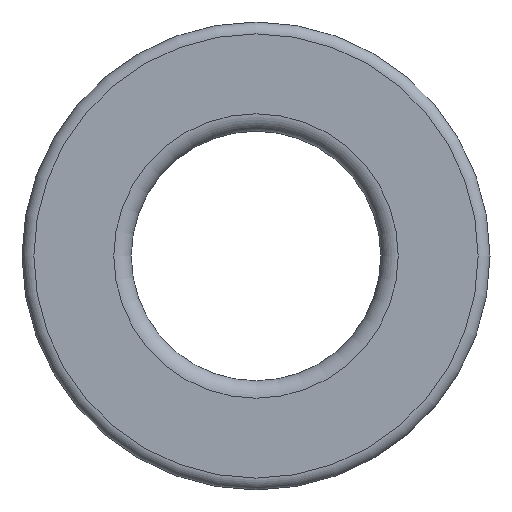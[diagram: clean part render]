
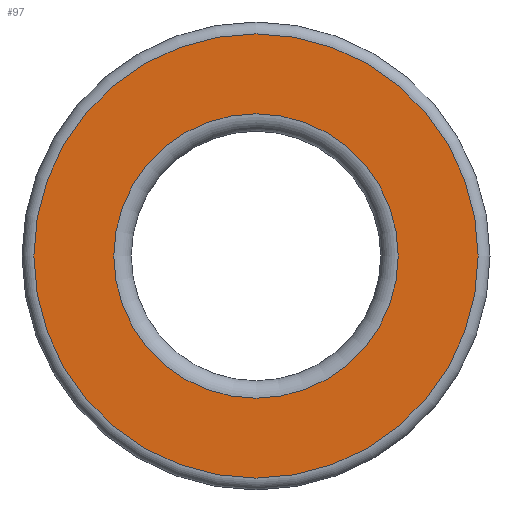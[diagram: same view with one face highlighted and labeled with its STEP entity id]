
A CAD part, left-side view. The second image highlights one B-rep face of the part: STEP entity #97.
In plain terms, the highlighted planar face has unit normal (-1, 0, 0).
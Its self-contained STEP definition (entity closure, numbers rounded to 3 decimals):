
#97=ADVANCED_FACE('',(#166,#167),#168,.F.);
#166=FACE_BOUND('',#238,.T.);
#167=FACE_OUTER_BOUND('',#239,.T.);
#168=PLANE('',#240);
#238=EDGE_LOOP('',(#354));
#239=EDGE_LOOP('',(#355));
#240=AXIS2_PLACEMENT_3D('',#356,#357,#358);
#354=ORIENTED_EDGE('',*,*,#386,.F.);
#355=ORIENTED_EDGE('',*,*,#387,.T.);
#356=CARTESIAN_POINT('',(0.0,7.119,0.0));
#357=DIRECTION('',(1.0,0.0,0.0));
#358=DIRECTION('',(0.0,0.0,-1.0));
#386=EDGE_CURVE('',#432,#432,#433,.T.);
#387=EDGE_CURVE('',#434,#434,#435,.T.);
#432=VERTEX_POINT('',#480);
#433=CIRCLE('',#481,4.558);
#434=VERTEX_POINT('',#482);
#435=CIRCLE('',#483,7.119);
#480=CARTESIAN_POINT('',(0.0,0.0,4.558));
#481=AXIS2_PLACEMENT_3D('',#550,#551,#552);
#482=CARTESIAN_POINT('',(0.0,0.0,7.119));
#483=AXIS2_PLACEMENT_3D('',#553,#554,#555);
#550=CARTESIAN_POINT('',(0.0,0.0,0.0));
#551=DIRECTION('',(-1.0,0.0,0.0));
#552=DIRECTION('',(0.0,0.0,1.0));
#553=CARTESIAN_POINT('',(0.0,0.0,0.0));
#554=DIRECTION('',(-1.0,0.0,0.0));
#555=DIRECTION('',(0.0,0.0,1.0));
